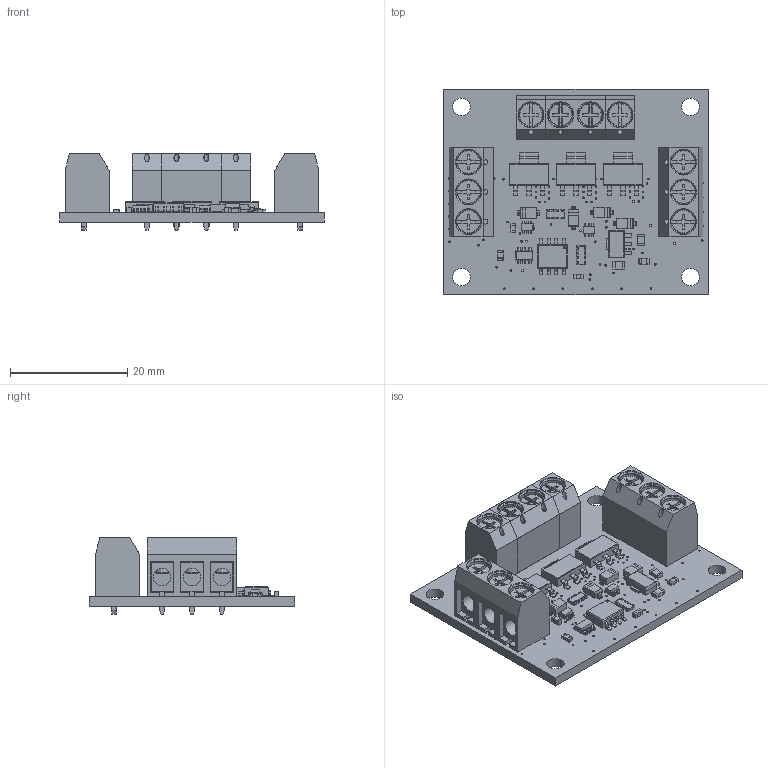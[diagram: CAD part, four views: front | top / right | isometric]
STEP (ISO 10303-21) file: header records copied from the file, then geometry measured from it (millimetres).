
FILE_DESCRIPTION(/* description */ (''),/* implementation_level */ '2;1');
FILE_NAME(/* name */ 'ws2816-mosfet-driver v7.step',/* time_stamp */ '2024-06-01T06:53:21-05:00',/* author */ (''),/* organization */ (''),/* preprocessor_version */ 'ST-DEVELOPER v20',/* originating_system */ 'Autodesk Translation Framework v13.14.0.145',/* authorisation */ '');
FILE_SCHEMA (('AUTOMOTIVE_DESIGN { 1 0 10303 214 3 1 1 }'));
Length unit declared in the file: millimetre
Products named in the file (30): ws2816-mosfet-driver; Board; Packages; SMD2,54-5,08-NOPASTE; W237-3E-NONUM; 395443002; _155; _532; _752; 395443002_2; _800; 395443002_3; SOIC-8; SOT223; W237-4P-NONUM; 395443002 (1); _155 (1); _532 (1); _752 (1); 395443002_2 (1); _800 (1); 395443002_3 (1); SOT-363_DIO; SOT-89; C0805; R0603; C0603; 0603-ARV; SOD123; SOT23-6
Assembly tree (49 placements, depth 4):
  ws2816-mosfet-driver
    Board
    Packages
      SOT-363_DIO  x2
      SMD2,54-5,08-NOPASTE  x10
      W237-3E-NONUM  x2
        395443002
        _155
        _532
        _752
        395443002_2
        _800
        395443002_3
      SOIC-8
      SOT223  x3
      C0603  x2
      0603-ARV  x2
      W237-4P-NONUM
        395443002 (1)
        _155 (1)
        _532 (1)
        _752 (1)
        395443002_2 (1)
        _800 (1)
        395443002_3 (1)
      SOT-89
      C0805  x2
      R0603  x2
      SOD123  x4
      SOT23-6
Bounding box: 45 x 35 x 13.05 mm (x, y, z)
Volume: 7030.6 mm3; surface area: 13868.1 mm2
Topology: 56 solids, 56 shells, 2548 faces, 6677 edges, 4334 vertices
Faces by surface type: plane 1664, cylinder 613, torus 90, bspline 88, sphere 48, cone 45
Full cylindrical faces by diameter (mm): 0.3 x142, 0.8 x15, 1.4 x10, 2.05 x15, 2.5 x15, 3 x19, 3.048 x15, 4.42 x30
Entity records: 57096 total; most frequent: CARTESIAN_POINT 10408, DIRECTION 9229, ORIENTED_EDGE 9066, EDGE_CURVE 4533, LINE 3151, VECTOR 3151, AXIS2_PLACEMENT_3D 3039, VERTEX_POINT 2954
